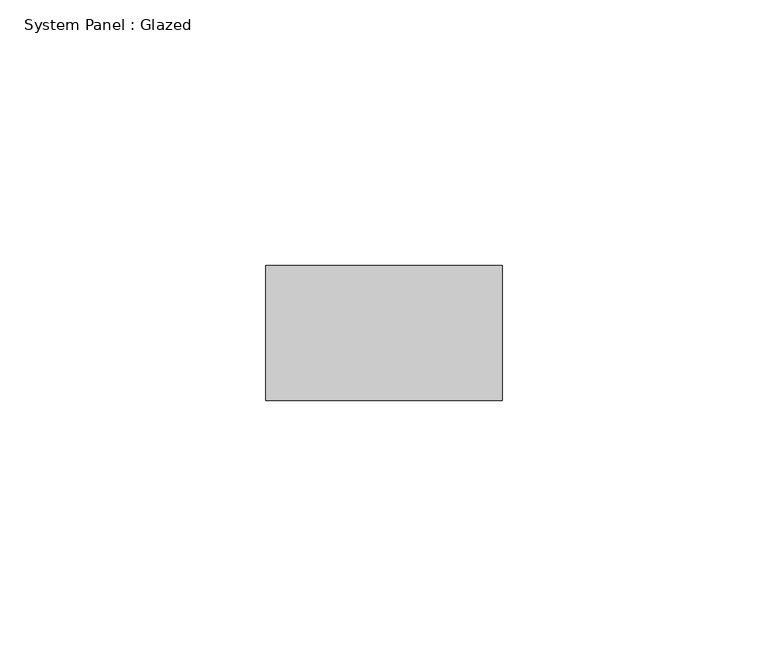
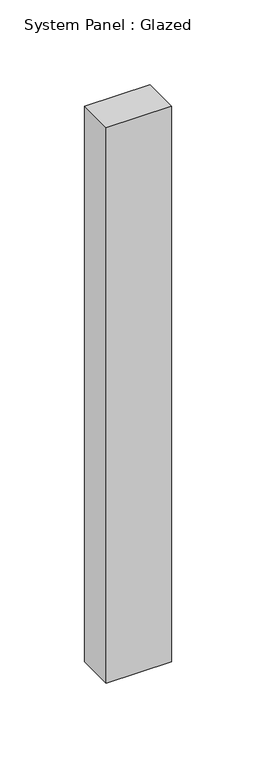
"""IFC4 building model written with IfcOpenShell, lengths in millimetres: plate geometry, System Panel : Glazed."""

from ifc_helpers import new_model, si_unit, origin, origin_with_axes, place, context, project, spatial, polyline, outline, extrude, source, transform, mapped, element, save


def system_panel_glazed_06d1d2b3(model_context):
    return source(origin(), model_context, "Body", "SweptSolid", [
        extrude(outline(polyline([(22.225, 19.05), (-22.225, 19.05), (-22.225, 44.45), (22.225, 44.45), (22.225, 19.05)])), origin_with_axes(), (0.0, 0.0, 1.0), 400.05),
    ])


if __name__ == "__main__":
    model = new_model("IFC4")
    model_context = context("Model", 3, world=origin())
    ifc_project = project(units=[si_unit("LENGTHUNIT", "METRE", prefix="MILLI")], contexts=[model_context])
    site = spatial("IfcSite", under=ifc_project)
    building = spatial("IfcBuilding", under=site)
    placement = place(None, origin())
    system_panel_glazed_shape = system_panel_glazed_06d1d2b3(model_context)
    element("IfcPlate", 1, ObjectType="System Panel : Glazed", at=placement, inside=building, context=model_context, shape_type="MappedRepresentation", body=[
        mapped(system_panel_glazed_shape, transform((0.0, 0.0, 0.0), x_axis=(1.0, 0.0, 0.0), y_axis=(0.0, 1.0, 0.0), z_axis=(0.0, 0.0, 1.0))),
    ])
    save(model, "model.ifc")
